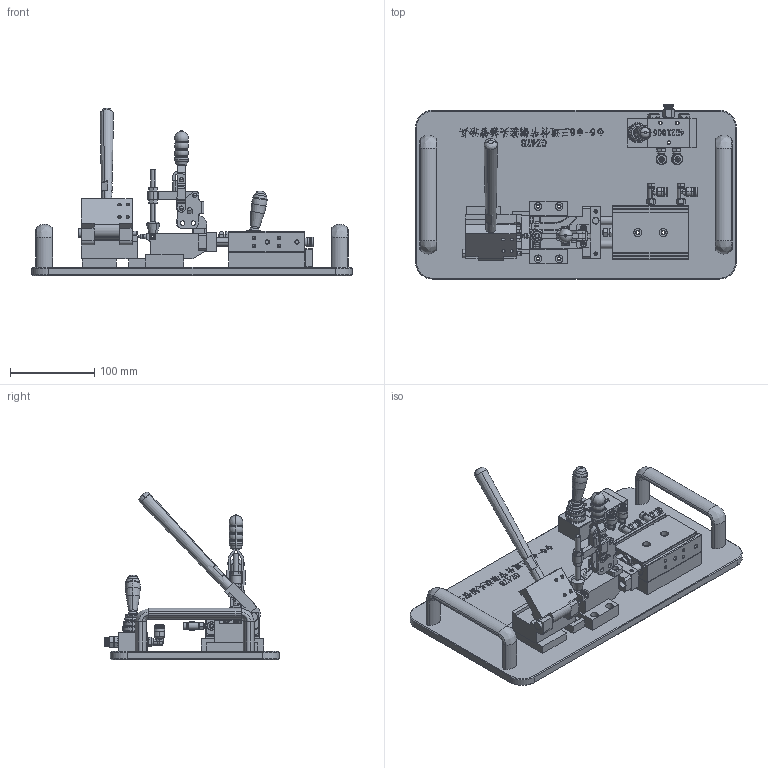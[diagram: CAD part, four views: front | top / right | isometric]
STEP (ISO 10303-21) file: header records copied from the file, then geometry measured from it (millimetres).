
FILE_DESCRIPTION (( 'STEP AP214' ), '1' );
FILE_NAME ('GZ47B.00_V1 φ6-φ6三通竹节铜接头插管治具.STEP', '2021-07-01T02:43:20', ( '微软中国' ), ( 'Microsoft' ), 'SwSTEP 2.0', 'SolidWorks 2017', '' );
FILE_SCHEMA (( 'AUTOMOTIVE_DESIGN' ));
Length unit declared in the file: millimetre
Products named in the file (28): TR20X15S; GZ47B.00_V1 φ6-φ6三通竹节铜接头插管治具; PTL6M5A-M; 种粣; PL601; PC601; BSLM01; 忒梟; 4H21006; 嘐隅釱._笢潔脣奪; φ6-φ6三通竹节铜接头; 嘐隅釱; 奻揤輸-02; 紵標假蚾釱; 盓傅啣02; MC6-62; 狟揤輸-02; MC04_2S_MC04-2S; 賑雄菁釱; MC04_2Shandle; ァ詰菜輸; MC04_28; 菁釱-V02; MC04_2_body; 絳砃輸; MC04_2S_plate; 菁釱-02; XAG24-A20-L128
Assembly tree (32 placements, depth 3):
  GZ47B.00_V1 φ6-φ6三通竹节铜接头插管治具
    菁釱-02
    絳砃輸  x2
    菁釱-V02
    ァ詰菜輸
    賑雄菁釱
    狟揤輸-02
    盓傅啣02
    奻揤輸-02
    嘐隅釱._笢潔脣奪
      嘐隅釱
      φ6-φ6三通竹节铜接头
    4H21006
    忒梟
    BSLM01  x2
    PC601
    PL601  x2
    种粣
    PTL6M5A-M  x2
    TR20X15S
    XAG24-A20-L128  x2
    MC04_2S_MC04-2S
      MC04_2S_plate
      MC04_2_body
      MC04_28
      MC04_2Shandle
    MC6-62
    紵標假蚾釱
Bounding box: 380 x 206.25 x 198.52 mm (x, y, z)
Volume: 1448239.1 mm3; surface area: 375280.5 mm2
Topology: 34 solids, 34 shells, 2731 faces, 6850 edges, 4327 vertices
Faces by surface type: plane 1129, cylinder 623, bspline 470, cone 445, torus 64
Entity records: 114073 total; most frequent: CARTESIAN_POINT 36594, ORIENTED_EDGE 12228, DIRECTION 10721, EDGE_CURVE 6114, VERTEX_POINT 3934, AXIS2_PLACEMENT_3D 3631, LINE 3459, VECTOR 3459
